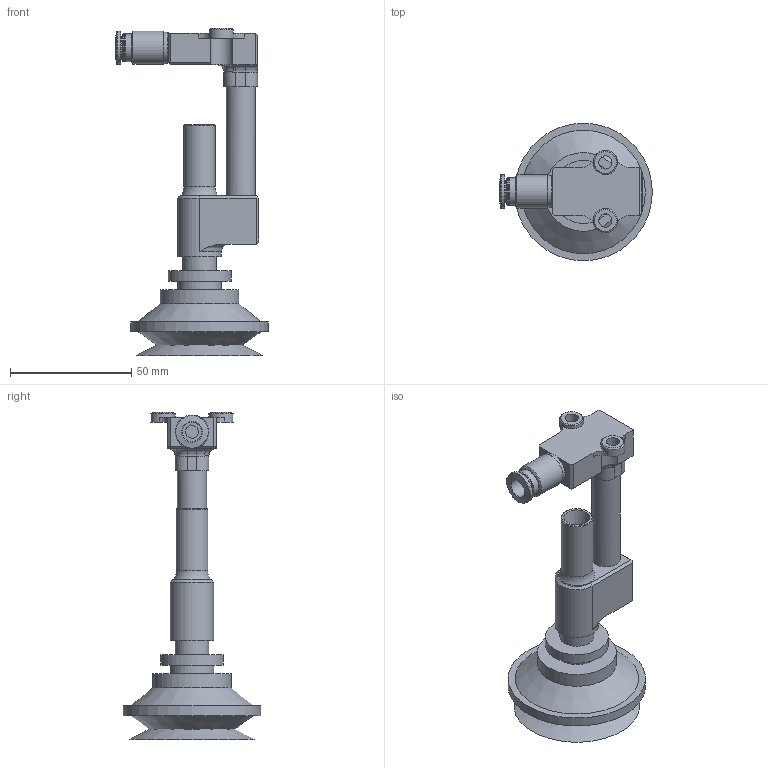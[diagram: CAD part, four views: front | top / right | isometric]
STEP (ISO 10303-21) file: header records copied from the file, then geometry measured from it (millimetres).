
FILE_DESCRIPTION(/* description */ ('Unknown'),/* implementation_level */ '2;1');
FILE_NAME(/* name */ 'HDHF Dm extern mit Tülle und 52er Sauger2',/* time_stamp */ '2025-06-13T08:31:43+02:00',/* author */ ('S.Brockfeld'),/* organization */ ('DIL e.V.'),/* preprocessor_version */ 'ST-DEVELOPER v18.104',/* originating_system */ 'Solid Edge',/* authorisation */ 'Unknown');
FILE_SCHEMA (('AUTOMOTIVE_DESIGN {1 0 10303 214 3 1 1}'));
Length unit declared in the file: millimetre
Products named in the file (1): HDHF Dm extern mit Tülle und 52er Sauger2
Bounding box: 62.99 x 56.78 x 134.97 mm (x, y, z)
Volume: 49148.7 mm3; surface area: 26248.1 mm2
Topology: 1 solids, 1 shells, 158 faces, 362 edges, 226 vertices
Faces by surface type: plane 77, cylinder 47, cone 17, torus 13, bspline 4
Full cylindrical faces by diameter (mm): 5.5 x2, 8 x1, 8.566 x2, 9.4 x1, 10 x2, 11.4 x2, 11.5 x1, 12 x1, 12.4 x2, 13 x2, 13.7 x1, 13.8 x1, 13.927 x1, 14 x1, 15 x1, 18 x1, 18.039 x1, 26 x1, 32.5 x1, 56.784 x1
Entity records: 8508 total; most frequent: CARTESIAN_POINT 4004, DIRECTION 730, ORIENTED_EDGE 610, EDGE_CURVE 305, AXIS2_PLACEMENT_3D 297, EDGE_LOOP 227, FACE_BOUND 227, VERTEX_POINT 214
